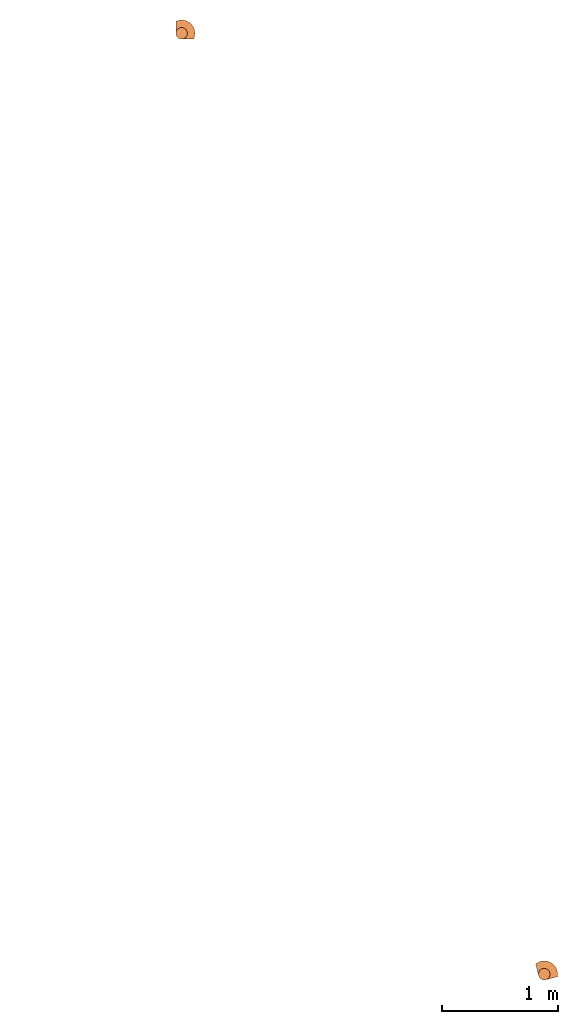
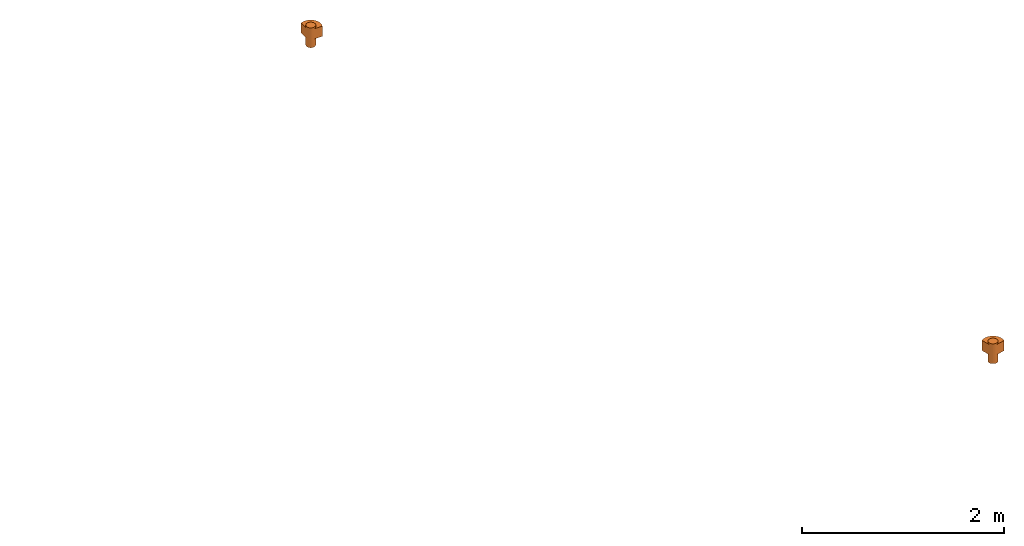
# One storey, part 2 of 2: 2 proxies.
"""IFC2X3 building model written with IfcOpenShell, lengths in centimetres."""

import ifcopenshell
import ifcopenshell.guid

model = None  # the IFC model being written
_history = None  # IfcOwnerHistory: only IFC2X3 demands one
_inside = {}  # id of a spatial element -> (the spatial element, [elements in it])
_under = {}  # id of a project, library or spatial element -> (it, [spatial elements below it])
_declared = {}  # id of a project -> (the project, [libraries it declares])
_typed = {}  # id of a type object -> (the type object, [elements of that type])
_made_of = {}  # id of a material, layer set ... -> (it, [elements and type objects made of it])


def new_model(schema):
    """Start an empty IFC model of exactly this schema.

    Asked for "IFC4X3", IfcOpenShell would pick the latest addendum, in which some entities
    have other attributes; the version numbers below select the first issue.
    IFC2X3 requires an IfcOwnerHistory on every rooted entity: one is made here for all.
    """
    global model, _history
    if schema == "IFC4X3":
        model = ifcopenshell.file(schema_version=(4, 3, 0, 0))
    else:
        model = ifcopenshell.file(schema=schema)
    _inside.clear()
    _under.clear()
    _declared.clear()
    _typed.clear()
    _made_of.clear()
    _history = None
    if model.schema == "IFC2X3":
        org = make("IfcOrganization", Name="unknown")
        user = make(
            "IfcPersonAndOrganization",
            ThePerson=make("IfcPerson", FamilyName="unknown"),
            TheOrganization=org,
        )
        app = make(
            "IfcApplication",
            ApplicationDeveloper=org,
            Version="unknown",
            ApplicationFullName="unknown",
            ApplicationIdentifier="unknown",
        )
        _history = make(
            "IfcOwnerHistory",
            OwningUser=user,
            OwningApplication=app,
            ChangeAction="ADDED",
            CreationDate=0,
        )
    return model


def make(cls, **values):
    """One entity of the class cls with the attributes given. An attribute that is None is left unset."""
    return model.create_entity(
        cls, **{name: value for name, value in values.items() if value is not None}
    )


def entity(cls, *values):
    """Any entity or typed value of the class cls, its attributes in the order of the schema. None: left unset."""
    e = model.create_entity(cls)
    for i, value in enumerate(values):
        if value is not None:
            e[i] = value
    return e


def rooted(cls, **values):
    """An entity with a GlobalId (a new one), such as an element, a storey or a relation."""
    return make(cls, GlobalId=ifcopenshell.guid.new(), OwnerHistory=_history, **values)


def si_unit(unit_type, name, prefix=None):
    """IfcSIUnit, for example si_unit("LENGTHUNIT", "METRE", prefix="MILLI")."""
    return make("IfcSIUnit", UnitType=unit_type, Prefix=prefix, Name=name)


def converted_unit(unit_type, name, factor, base, dimensions=None, offset=None):
    """IfcConversionBasedUnit, such as the inch: factor (a typed value) times the base unit."""
    return make(
        "IfcConversionBasedUnit"
        if offset is None
        else "IfcConversionBasedUnitWithOffset",
        ConversionOffset=offset,
        Dimensions=None
        if dimensions is None
        else entity("IfcDimensionalExponents", *dimensions),
        UnitType=unit_type,
        Name=name,
        ConversionFactor=make(
            "IfcMeasureWithUnit", ValueComponent=factor, UnitComponent=base
        ),
    )


def derived_unit(unit_type, elements):
    """IfcDerivedUnit: a product of units, each with its exponent."""
    return make(
        "IfcDerivedUnit",
        Elements=[
            make("IfcDerivedUnitElement", Unit=unit, Exponent=power)
            for unit, power in elements
        ],
        UnitType=unit_type,
    )


def assignment(units):
    """IfcUnitAssignment: the units of a project."""
    return None if units is None else make("IfcUnitAssignment", Units=units)


def point(xyz):
    """IfcCartesianPoint."""
    return None if xyz is None else make("IfcCartesianPoint", Coordinates=xyz)


def direction(xyz):
    """IfcDirection."""
    return None if xyz is None else make("IfcDirection", DirectionRatios=xyz)


def frame(location, z_axis=None, x_axis=None):
    """IfcAxis2Placement3D, a coordinate frame: its origin and axes. An axis left out is left unset."""
    return make(
        "IfcAxis2Placement3D",
        Location=point(location),
        Axis=direction(z_axis),
        RefDirection=direction(x_axis),
    )


def origin():
    """The frame at (0, 0, 0) with its axes left unset."""
    return frame((0.0, 0.0, 0.0))


def place(relative_to, where):
    """IfcLocalPlacement: puts the frame where relative to a parent placement (None: the world)."""
    return make(
        "IfcLocalPlacement", PlacementRelTo=relative_to, RelativePlacement=where
    )


def context(
    kind, dimensions, precision=None, world=None, true_north=None, identifier=None
):
    """IfcGeometricRepresentationContext, for example the 3D "Model" context."""
    return make(
        "IfcGeometricRepresentationContext",
        ContextIdentifier=identifier,
        ContextType=kind,
        CoordinateSpaceDimension=dimensions,
        Precision=precision,
        WorldCoordinateSystem=world,
        TrueNorth=true_north,
    )


def subcontext(parent, identifier, kind, view, scale=None):
    """IfcGeometricRepresentationSubContext, for example "Body" below "Model"."""
    return make(
        "IfcGeometricRepresentationSubContext",
        ContextIdentifier=identifier,
        ContextType=kind,
        ParentContext=parent,
        TargetScale=scale,
        TargetView=view,
    )


def project(units=None, contexts=None):
    """IfcProject with its units and contexts."""
    return rooted(
        "IfcProject",
        Name="project",
        RepresentationContexts=contexts,
        UnitsInContext=assignment(units),
    )


def spatial(cls, under=None, at=None, **own):
    """A site, building, storey or space (cls), placed at a placement, below another one or the project."""
    s = rooted(cls, ObjectPlacement=at, **own)
    if under is not None:
        _under.setdefault(under.id(), (under, []))[1].append(s)
    return s


def faces_of(points, faces, orient=None, outer=None):
    """IfcFace entities. A face is a list of loops; a loop is a list of indices into points, from 0.

    orient and outer hold one flag for each loop. By default every Orientation is true, the
    first loop of a face is its IfcFaceOuterBound and the others are IfcFaceBound.
    """
    made = []
    for i, loops in enumerate(faces):
        bounds = []
        for j, loop in enumerate(loops):
            is_outer = j == 0 if outer is None else outer[i][j]
            bounds.append(
                make(
                    "IfcFaceOuterBound" if is_outer else "IfcFaceBound",
                    Bound=make("IfcPolyLoop", Polygon=[points[k] for k in loop]),
                    Orientation=True if orient is None else orient[i][j],
                )
            )
        made.append(make("IfcFace", Bounds=bounds))
    return made


def faceted_brep(points, faces, orient=None, outer=None, voids=None):
    """IfcFacetedBrep: a solid bounded by flat faces; with voids (closed shells), ...WithVoids."""
    shared = [point(p) for p in points]
    hull = make("IfcClosedShell", CfsFaces=faces_of(shared, faces, orient, outer))
    if voids is None:
        return make("IfcFacetedBrep", Outer=hull)
    return make(
        "IfcFacetedBrepWithVoids",
        Outer=hull,
        Voids=[
            make(cls, CfsFaces=faces_of(shared, fs, o, b)) for cls, fs, o, b in voids
        ],
    )


def shape(context_of_items, identifier, shape_type, items):
    """IfcShapeRepresentation: the items that make up one representation, for example the "Body"."""
    return make(
        "IfcShapeRepresentation",
        ContextOfItems=context_of_items,
        RepresentationIdentifier=identifier,
        RepresentationType=shape_type,
        Items=items,
    )


def source(mapping_origin, context_of_items, identifier, shape_type, items):
    """IfcRepresentationMap: a shape defined once, which mapped items show again and again."""
    return make(
        "IfcRepresentationMap",
        MappingOrigin=mapping_origin,
        MappedRepresentation=shape(context_of_items, identifier, shape_type, items),
    )


def transform(
    local_origin,
    x_axis=None,
    y_axis=None,
    z_axis=None,
    scale=None,
    scale2=None,
    scale3=None,
    uniform=True,
):
    """IfcCartesianTransformationOperator3D, or its non-uniform kind. x_axis, y_axis, z_axis: its Axis1, 2, 3."""
    if uniform:
        return make(
            "IfcCartesianTransformationOperator3D",
            Axis1=direction(x_axis),
            Axis2=direction(y_axis),
            LocalOrigin=point(local_origin),
            Scale=scale,
            Axis3=direction(z_axis),
        )
    return make(
        "IfcCartesianTransformationOperator3DnonUniform",
        Axis1=direction(x_axis),
        Axis2=direction(y_axis),
        LocalOrigin=point(local_origin),
        Scale=scale,
        Axis3=direction(z_axis),
        Scale2=scale2,
        Scale3=scale3,
    )


def mapped(mapping_source, mapping_target):
    """IfcMappedItem: shows the shape of a source again, moved by a transform."""
    return make(
        "IfcMappedItem", MappingSource=mapping_source, MappingTarget=mapping_target
    )


def material(Name=None, Category=None):
    """IfcMaterial."""
    return make("IfcMaterial", Name=Name, Category=Category)


def made_of(thing, what):
    """Note that an element or type object is made of a material, layer set ...; save() writes the relation."""
    if what is not None:
        _made_of.setdefault(what.id(), (what, []))[1].append(thing)
    return thing


def type_object(cls, material=None, **own):
    """A type object (cls), such as IfcWallType, which elements share."""
    return made_of(rooted(cls, **own), material)


def type_shapes(of_type, sources):
    """Give a type object the sources (RepresentationMaps) that its elements show as mapped items."""
    of_type.RepresentationMaps = sources


def element(
    cls,
    number,
    at=None,
    inside=None,
    cuts=None,
    type_object=None,
    material=None,
    context=None,
    identifier="Body",
    shape_type=None,
    held_by="IfcProductDefinitionShape",
    body=None,
    shapes=None,
    **own,
):
    """One element of the class cls, such as IfcWall. Its Tag is "e" and its number.

    at: its placement. inside: the storey or other place that contains it. cuts: it is an
    opening in that element (IfcRelVoidsElement). A single representation is given by context,
    identifier, shape_type and body (its items); several are given by shapes. held_by: the class
    of the entity that holds the representations. save() writes the other relations.
    """
    e = rooted(cls, Tag="e%d" % number, ObjectPlacement=at, **own)
    if body is not None:
        shapes = [shape(context, identifier, shape_type, body)]
    if shapes is not None:
        e.Representation = make(held_by, Representations=shapes)
    if inside is not None:
        _inside.setdefault(inside.id(), (inside, []))[1].append(e)
    if cuts is not None:
        rooted(
            "IfcRelVoidsElement", RelatingBuildingElement=cuts, RelatedOpeningElement=e
        )
    if type_object is not None:
        _typed.setdefault(type_object.id(), (type_object, []))[1].append(e)
    return made_of(e, material)


def aggregate(whole, parts):
    """IfcRelAggregates: a whole, such as a stair, and the parts it consists of."""
    return rooted("IfcRelAggregates", RelatingObject=whole, RelatedObjects=parts)


def save(model, path):
    """Write the relations noted so far, then the file.

    IfcRelAggregates (storeys below a building ...), IfcRelContainedInSpatialStructure (elements
    in a storey), IfcRelDefinesByType, IfcRelAssociatesMaterial and IfcRelDeclares: one each for
    every whole, place, type object, material and project.
    """
    for whole, parts in _under.values():
        aggregate(whole, parts)
    for where, things in _inside.values():
        rooted(
            "IfcRelContainedInSpatialStructure",
            RelatedElements=things,
            RelatingStructure=where,
        )
    for kind, things in _typed.values():
        rooted("IfcRelDefinesByType", RelatedObjects=things, RelatingType=kind)
    for what, things in _made_of.values():
        rooted("IfcRelAssociatesMaterial", RelatedObjects=things, RelatingMaterial=what)
    for by, libraries in _declared.values():
        rooted("IfcRelDeclares", RelatingContext=by, RelatedDefinitions=libraries)
    model.write(path)


model = new_model("IFC2X3")

# Units and contexts
model_context = context("Model", 3, precision=0.001, world=origin(), true_north=direction((6.12303176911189e-17, 1.0)))
body_context = subcontext(model_context, "Body", "Model", "MODEL_VIEW")
ifc_project = project(units=[si_unit("LENGTHUNIT", "METRE", prefix="CENTI"), si_unit("AREAUNIT", "SQUARE_METRE"), si_unit("VOLUMEUNIT", "CUBIC_METRE"), converted_unit("PLANEANGLEUNIT", "DEGREE", entity("IfcRatioMeasure", 0.0174532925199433), si_unit("PLANEANGLEUNIT", "RADIAN"), dimensions=[0, 0, 0, 0, 0, 0, 0]), si_unit("MASSUNIT", "GRAM", prefix="KILO"), derived_unit("MASSDENSITYUNIT", [(si_unit("MASSUNIT", "GRAM", prefix="KILO"), 1), (si_unit("LENGTHUNIT", "METRE"), -3)]), si_unit("TIMEUNIT", "SECOND"), si_unit("FREQUENCYUNIT", "HERTZ"), si_unit("THERMODYNAMICTEMPERATUREUNIT", "DEGREE_CELSIUS"), derived_unit("THERMALTRANSMITTANCEUNIT", [(si_unit("MASSUNIT", "GRAM", prefix="KILO"), 1), (si_unit("THERMODYNAMICTEMPERATUREUNIT", "KELVIN"), -1), (si_unit("TIMEUNIT", "SECOND"), -3)]), derived_unit("VOLUMETRICFLOWRATEUNIT", [(si_unit("LENGTHUNIT", "METRE"), 3), (si_unit("TIMEUNIT", "SECOND"), -1)]), si_unit("ELECTRICCURRENTUNIT", "AMPERE"), si_unit("ELECTRICVOLTAGEUNIT", "VOLT"), si_unit("POWERUNIT", "WATT"), si_unit("FORCEUNIT", "NEWTON"), si_unit("ILLUMINANCEUNIT", "LUX"), si_unit("LUMINOUSFLUXUNIT", "LUMEN"), si_unit("LUMINOUSINTENSITYUNIT", "CANDELA"), derived_unit("USERDEFINED", [(si_unit("MASSUNIT", "GRAM", prefix="KILO"), -1), (si_unit("LENGTHUNIT", "METRE"), -2), (si_unit("TIMEUNIT", "SECOND"), 3), (si_unit("LUMINOUSFLUXUNIT", "LUMEN"), 1)]), derived_unit("LINEARVELOCITYUNIT", [(si_unit("LENGTHUNIT", "METRE"), 1), (si_unit("TIMEUNIT", "SECOND"), -1)]), si_unit("PRESSUREUNIT", "PASCAL"), derived_unit("USERDEFINED", [(si_unit("LENGTHUNIT", "METRE"), -2), (si_unit("MASSUNIT", "GRAM", prefix="KILO"), 1), (si_unit("TIMEUNIT", "SECOND"), -2)])], contexts=[model_context])

# Site, building, storey
site_placement = place(None, origin())
site = spatial("IfcSite", under=ifc_project, at=site_placement, Name="Default", CompositionType="ELEMENT")
building_placement = place(site_placement, origin())
building = spatial("IfcBuilding", under=site, at=building_placement, Name="CAGE 03", CompositionType="ELEMENT")
storey_placement = place(building_placement, frame((0.0, 0.0, 385.0)))
storey = spatial("IfcBuildingStorey", under=building, at=storey_placement, Name="Ac R+1", CompositionType="ELEMENT", Elevation=385.0)

# Proxies
ifc_material = material(Name="BBGO_Résa")
building_element_proxy_type_1 = type_object("IfcBuildingElementProxyType", Name="Siphon de balcon", PredefinedType="NOTDEFINED", material=ifc_material)
shared_shape_1 = source(origin(), body_context, "Body", "Brep", [
    faceted_brep([(10.3541591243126, 16.4778834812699, 9.69999999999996), (10.3541591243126, 16.4778834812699, 0.0), (9.14825434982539, 15.9783813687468, 0.0), (9.14825434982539, 15.9783813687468, 9.69999999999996), (10.3541591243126, 16.4778834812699, 22.0), (9.14825434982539, 15.9783813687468, 22.0), (9.14825434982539, 15.9783813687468, 24.0), (10.3541591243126, 16.4778834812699, 24.0), (8.11272044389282, 15.1837882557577, 0.0), (8.11272044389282, 15.1837882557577, 9.69999999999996), (8.11272044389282, 15.1837882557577, 22.0), (8.11272044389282, 15.1837882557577, 24.0), (7.31812733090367, 14.1482543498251, 9.69999999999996), (7.31812733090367, 14.1482543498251, 0.0), (6.81862521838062, 12.9423495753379, 0.0), (6.81862521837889, 12.942349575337, 9.69999999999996), (7.31812733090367, 14.1482543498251, 22.0), (6.81862521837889, 12.942349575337, 22.0), (6.81862521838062, 12.9423495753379, 24.0), (7.31812733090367, 14.1482543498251, 24.0), (6.64825434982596, 11.6482543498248, 0.0), (6.64825434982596, 11.6482543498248, 9.69999999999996), (6.64825434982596, 11.6482543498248, 24.0), (6.64825434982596, 11.6482543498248, 22.0), (11.6482543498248, 16.6482543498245, 9.69999999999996), (11.6482543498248, 16.6482543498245, 0.0), (11.6482543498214, 16.6482543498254, 22.0), (11.6482543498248, 16.6482543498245, 24.0), (6.81862521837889, 10.3541591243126, 9.69999999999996), (6.81862521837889, 10.3541591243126, 0.0), (7.31812733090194, 9.14825434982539, 0.0), (7.31812733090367, 9.14825434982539, 9.69999999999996), (6.81862521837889, 10.3541591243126, 22.0), (7.31812733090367, 9.14825434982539, 22.0), (7.31812733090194, 9.14825434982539, 24.0), (6.81862521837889, 10.3541591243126, 24.0), (8.11272044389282, 8.11272044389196, 0.0), (8.11272044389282, 8.11272044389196, 9.69999999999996), (8.11272044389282, 8.11272044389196, 22.0), (8.11272044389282, 8.11272044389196, 24.0), (9.14825434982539, 7.31812733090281, 9.69999999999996), (9.14825434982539, 7.31812733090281, 0.0), (10.3541591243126, 6.81862521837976, 0.0), (10.3541591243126, 6.81862521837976, 9.69999999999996), (9.14825434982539, 7.31812733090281, 22.0), (10.3541591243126, 6.81862521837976, 22.0), (10.3541591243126, 6.81862521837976, 24.0), (9.14825434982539, 7.31812733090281, 24.0), (11.6482543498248, 6.64825434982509, 0.0), (11.6482543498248, 6.64825434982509, 9.69999999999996), (11.6482543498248, 6.64825434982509, 22.0), (11.6482543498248, 6.64825434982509, 24.0), (16.4778834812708, 10.3541591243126, 22.0), (15.978381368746, 9.14825434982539, 22.0), (15.1837882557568, 8.11272044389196, 22.0), (14.1482543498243, 7.31812733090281, 22.0), (12.942349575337, 6.81862521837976, 22.0), (1.29209676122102, 16.6482543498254, 22.0), (0.383832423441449, 13.964026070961, 22.0), (0.15952722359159, 11.1391875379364, 22.0), (0.632800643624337, 8.34525879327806, 22.0), (1.77491621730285, 5.75188308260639, 22.0), (3.51652636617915, 3.51652636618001, 22.0), (5.75188308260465, 1.77491621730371, 22.0), (8.34525879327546, 0.632800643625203, 22.0), (11.1391875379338, 0.159527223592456, 22.0), (13.9640260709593, 0.383832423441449, 22.0), (16.6482543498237, 1.29209676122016, 22.0), (16.6482543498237, 11.6482543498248, 22.0), (12.942349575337, 6.81862521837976, 9.69999999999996), (14.1482543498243, 7.31812733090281, 9.69999999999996), (15.1837882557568, 8.11272044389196, 9.69999999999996), (15.978381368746, 9.14825434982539, 9.69999999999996), (16.4778834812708, 10.3541591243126, 9.69999999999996), (16.6482543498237, 11.6482543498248, 9.69999999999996), (16.6482543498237, 1.29209676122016, 9.69999999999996), (13.9640260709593, 0.383832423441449, 9.69999999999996), (11.1391875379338, 0.159527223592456, 9.69999999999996), (8.34525879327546, 0.632800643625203, 9.69999999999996), (5.75188308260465, 1.77491621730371, 9.69999999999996), (3.51652636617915, 3.51652636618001, 9.69999999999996), (1.77491621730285, 5.75188308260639, 9.69999999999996), (0.632800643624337, 8.34525879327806, 9.69999999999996), (0.15952722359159, 11.1391875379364, 9.69999999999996), (0.383832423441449, 13.964026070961, 9.69999999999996), (1.29209676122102, 16.6482543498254, 9.69999999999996), (12.942349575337, 6.81862521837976, 24.0), (14.1482543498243, 7.31812733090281, 24.0), (15.1837882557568, 8.11272044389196, 24.0), (15.978381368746, 9.14825434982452, 24.0), (16.477883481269, 10.3541591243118, 24.0), (16.6482543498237, 11.6482543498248, 24.0), (16.4778834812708, 12.942349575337, 24.0), (15.9783813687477, 14.1482543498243, 24.0), (15.1837882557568, 15.1837882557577, 24.0), (14.1482543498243, 15.9783813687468, 24.0), (12.942349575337, 16.4778834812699, 24.0), (14.1482543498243, 7.31812733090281, 0.0), (12.942349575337, 6.81862521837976, 0.0), (12.942349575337, 16.4778834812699, 0.0), (14.1482543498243, 15.9783813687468, 0.0), (15.1837882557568, 15.1837882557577, 0.0), (15.9783813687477, 14.1482543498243, 0.0), (16.4778834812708, 12.942349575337, 0.0), (16.6482543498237, 11.6482543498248, 0.0), (16.477883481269, 10.3541591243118, 0.0), (15.978381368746, 9.14825434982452, 0.0), (15.1837882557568, 8.11272044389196, 0.0)], [[[0, 1, 2, 3]], [[4, 5, 6, 7]], [[8, 9, 3, 2]], [[5, 10, 11, 6]], [[12, 13, 14, 15]], [[16, 17, 18, 19]], [[8, 13, 12, 9]], [[10, 16, 19, 11]], [[15, 14, 20, 21]], [[22, 18, 17, 23]], [[1, 0, 24, 25]], [[26, 4, 7, 27]], [[28, 29, 30, 31]], [[32, 33, 34, 35]], [[36, 37, 31, 30]], [[33, 38, 39, 34]], [[40, 41, 42, 43]], [[44, 45, 46, 47]], [[36, 41, 40, 37]], [[38, 44, 47, 39]], [[43, 42, 48, 49]], [[45, 50, 51, 46]], [[29, 28, 21, 20]], [[32, 35, 22, 23]], [[52, 53, 54, 55, 56, 50, 45, 44, 38, 33, 32, 23, 17, 16, 10, 5, 4, 26, 57, 58, 59, 60, 61, 62, 63, 64, 65, 66, 67, 68]], [[21, 28, 31, 37, 40, 43, 49, 69, 70, 71, 72, 73, 74, 75, 76, 77, 78, 79, 80, 81, 82, 83, 84, 85, 24, 0, 3, 9, 12, 15]], [[57, 26, 24, 85]], [[58, 84, 83, 59]], [[60, 82, 81, 61]], [[83, 82, 60, 59]], [[61, 81, 80, 62]], [[84, 58, 57, 85]], [[63, 79, 78, 64]], [[65, 77, 76, 66]], [[78, 77, 65, 64]], [[66, 76, 75, 67]], [[79, 63, 62, 80]], [[68, 67, 75, 74]], [[22, 35, 34, 39, 47, 46, 51, 86, 87, 88, 89, 90, 91, 92, 93, 94, 95, 96, 27, 7, 6, 11, 19, 18]], [[97, 98, 48, 42, 41, 36, 30, 29, 20, 14, 13, 8, 2, 1, 25, 99, 100, 101, 102, 103, 104, 105, 106, 107]], [[48, 98, 69, 49]], [[51, 50, 56, 86]], [[97, 70, 69, 98]], [[56, 55, 87, 86]], [[107, 106, 72, 71]], [[54, 53, 89, 88]], [[107, 71, 70, 97]], [[54, 88, 87, 55]], [[106, 105, 73, 72]], [[89, 53, 52, 90]], [[74, 104, 103, 92, 91, 68]], [[105, 104, 74, 73]], [[52, 68, 91, 90]], [[92, 103, 102, 93]], [[99, 25, 24, 26, 27, 96]], [[94, 101, 100, 95]], [[99, 96, 95, 100]], [[93, 102, 101, 94]]]),
])
type_shapes(building_element_proxy_type_1, [shared_shape_1])
proxy_1_placement = place(storey_placement, frame((11271.0140744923, 4289.30892042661, 203.0), z_axis=(0.0, 0.0, 1.0), x_axis=(-1.0, 0.0, 0.0)))
element("IfcBuildingElementProxy", 1, at=proxy_1_placement, inside=storey, type_object=building_element_proxy_type_1, material=ifc_material, Name="Siphon de balcon29:Siphon de balcon", ObjectType="Siphon de balcon", context=body_context, shape_type="MappedRepresentation", body=[
    mapped(shared_shape_1, transform((0.0, 0.0, 0.0), scale=1.0)),
])
building_element_proxy_type_2 = type_object("IfcBuildingElementProxyType", Name="Siphon de balcon", PredefinedType="NOTDEFINED", material=ifc_material)
shared_shape_2 = source(origin(), body_context, "Body", "Brep", [
    faceted_brep([(10.3541591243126, 16.4778834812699, 9.69999999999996), (10.3541591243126, 16.4778834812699, 0.0), (9.14825434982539, 15.9783813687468, 0.0), (9.14825434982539, 15.9783813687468, 9.69999999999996), (10.3541591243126, 16.4778834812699, 22.0), (9.14825434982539, 15.9783813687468, 22.0), (9.14825434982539, 15.9783813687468, 24.0), (10.3541591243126, 16.4778834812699, 24.0), (8.11272044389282, 15.1837882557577, 0.0), (8.11272044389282, 15.1837882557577, 9.69999999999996), (8.11272044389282, 15.1837882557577, 22.0), (8.11272044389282, 15.1837882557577, 24.0), (7.31812733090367, 14.1482543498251, 9.69999999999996), (7.31812733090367, 14.1482543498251, 0.0), (6.81862521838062, 12.9423495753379, 0.0), (6.81862521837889, 12.942349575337, 9.69999999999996), (7.31812733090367, 14.1482543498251, 22.0), (6.81862521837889, 12.942349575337, 22.0), (6.81862521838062, 12.9423495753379, 24.0), (7.31812733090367, 14.1482543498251, 24.0), (6.64825434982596, 11.6482543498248, 0.0), (6.64825434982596, 11.6482543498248, 9.69999999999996), (6.64825434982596, 11.6482543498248, 24.0), (6.64825434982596, 11.6482543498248, 22.0), (11.6482543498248, 16.6482543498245, 9.69999999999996), (11.6482543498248, 16.6482543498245, 0.0), (11.6482543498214, 16.6482543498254, 22.0), (11.6482543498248, 16.6482543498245, 24.0), (6.81862521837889, 10.3541591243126, 9.69999999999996), (6.81862521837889, 10.3541591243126, 0.0), (7.31812733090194, 9.14825434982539, 0.0), (7.31812733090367, 9.14825434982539, 9.69999999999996), (6.81862521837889, 10.3541591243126, 22.0), (7.31812733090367, 9.14825434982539, 22.0), (7.31812733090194, 9.14825434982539, 24.0), (6.81862521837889, 10.3541591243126, 24.0), (8.11272044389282, 8.11272044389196, 0.0), (8.11272044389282, 8.11272044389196, 9.69999999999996), (8.11272044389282, 8.11272044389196, 22.0), (8.11272044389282, 8.11272044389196, 24.0), (9.14825434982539, 7.31812733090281, 9.69999999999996), (9.14825434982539, 7.31812733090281, 0.0), (10.3541591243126, 6.81862521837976, 0.0), (10.3541591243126, 6.81862521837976, 9.69999999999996), (9.14825434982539, 7.31812733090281, 22.0), (10.3541591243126, 6.81862521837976, 22.0), (10.3541591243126, 6.81862521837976, 24.0), (9.14825434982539, 7.31812733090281, 24.0), (11.6482543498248, 6.64825434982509, 0.0), (11.6482543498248, 6.64825434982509, 9.69999999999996), (11.6482543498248, 6.64825434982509, 22.0), (11.6482543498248, 6.64825434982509, 24.0), (16.4778834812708, 10.3541591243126, 22.0), (15.978381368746, 9.14825434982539, 22.0), (15.1837882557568, 8.11272044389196, 22.0), (14.1482543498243, 7.31812733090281, 22.0), (12.942349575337, 6.81862521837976, 22.0), (1.29209676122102, 16.6482543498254, 22.0), (0.383832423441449, 13.964026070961, 22.0), (0.15952722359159, 11.1391875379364, 22.0), (0.632800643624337, 8.34525879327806, 22.0), (1.77491621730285, 5.75188308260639, 22.0), (3.51652636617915, 3.51652636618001, 22.0), (5.75188308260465, 1.77491621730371, 22.0), (8.34525879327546, 0.632800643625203, 22.0), (11.1391875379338, 0.159527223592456, 22.0), (13.9640260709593, 0.383832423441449, 22.0), (16.6482543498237, 1.29209676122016, 22.0), (16.6482543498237, 11.6482543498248, 22.0), (12.942349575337, 6.81862521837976, 9.69999999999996), (14.1482543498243, 7.31812733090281, 9.69999999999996), (15.1837882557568, 8.11272044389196, 9.69999999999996), (15.978381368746, 9.14825434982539, 9.69999999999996), (16.4778834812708, 10.3541591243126, 9.69999999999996), (16.6482543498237, 11.6482543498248, 9.69999999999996), (16.6482543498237, 1.29209676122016, 9.69999999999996), (13.9640260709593, 0.383832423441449, 9.69999999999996), (11.1391875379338, 0.159527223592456, 9.69999999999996), (8.34525879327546, 0.632800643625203, 9.69999999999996), (5.75188308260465, 1.77491621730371, 9.69999999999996), (3.51652636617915, 3.51652636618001, 9.69999999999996), (1.77491621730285, 5.75188308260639, 9.69999999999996), (0.632800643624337, 8.34525879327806, 9.69999999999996), (0.15952722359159, 11.1391875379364, 9.69999999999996), (0.383832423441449, 13.964026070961, 9.69999999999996), (1.29209676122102, 16.6482543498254, 9.69999999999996), (12.942349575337, 6.81862521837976, 24.0), (14.1482543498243, 7.31812733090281, 24.0), (15.1837882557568, 8.11272044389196, 24.0), (15.978381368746, 9.14825434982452, 24.0), (16.477883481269, 10.3541591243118, 24.0), (16.6482543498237, 11.6482543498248, 24.0), (16.4778834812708, 12.942349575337, 24.0), (15.9783813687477, 14.1482543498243, 24.0), (15.1837882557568, 15.1837882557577, 24.0), (14.1482543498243, 15.9783813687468, 24.0), (12.942349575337, 16.4778834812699, 24.0), (14.1482543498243, 7.31812733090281, 0.0), (12.942349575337, 6.81862521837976, 0.0), (12.942349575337, 16.4778834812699, 0.0), (14.1482543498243, 15.9783813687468, 0.0), (15.1837882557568, 15.1837882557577, 0.0), (15.9783813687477, 14.1482543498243, 0.0), (16.4778834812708, 12.942349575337, 0.0), (16.6482543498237, 11.6482543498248, 0.0), (16.477883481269, 10.3541591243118, 0.0), (15.978381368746, 9.14825434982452, 0.0), (15.1837882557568, 8.11272044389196, 0.0)], [[[0, 1, 2, 3]], [[4, 5, 6, 7]], [[8, 9, 3, 2]], [[5, 10, 11, 6]], [[12, 13, 14, 15]], [[16, 17, 18, 19]], [[8, 13, 12, 9]], [[10, 16, 19, 11]], [[15, 14, 20, 21]], [[22, 18, 17, 23]], [[1, 0, 24, 25]], [[26, 4, 7, 27]], [[28, 29, 30, 31]], [[32, 33, 34, 35]], [[36, 37, 31, 30]], [[33, 38, 39, 34]], [[40, 41, 42, 43]], [[44, 45, 46, 47]], [[36, 41, 40, 37]], [[38, 44, 47, 39]], [[43, 42, 48, 49]], [[45, 50, 51, 46]], [[29, 28, 21, 20]], [[32, 35, 22, 23]], [[52, 53, 54, 55, 56, 50, 45, 44, 38, 33, 32, 23, 17, 16, 10, 5, 4, 26, 57, 58, 59, 60, 61, 62, 63, 64, 65, 66, 67, 68]], [[21, 28, 31, 37, 40, 43, 49, 69, 70, 71, 72, 73, 74, 75, 76, 77, 78, 79, 80, 81, 82, 83, 84, 85, 24, 0, 3, 9, 12, 15]], [[57, 26, 24, 85]], [[58, 84, 83, 59]], [[60, 82, 81, 61]], [[83, 82, 60, 59]], [[61, 81, 80, 62]], [[84, 58, 57, 85]], [[63, 79, 78, 64]], [[65, 77, 76, 66]], [[78, 77, 65, 64]], [[66, 76, 75, 67]], [[79, 63, 62, 80]], [[68, 67, 75, 74]], [[22, 35, 34, 39, 47, 46, 51, 86, 87, 88, 89, 90, 91, 92, 93, 94, 95, 96, 27, 7, 6, 11, 19, 18]], [[97, 98, 48, 42, 41, 36, 30, 29, 20, 14, 13, 8, 2, 1, 25, 99, 100, 101, 102, 103, 104, 105, 106, 107]], [[48, 98, 69, 49]], [[51, 50, 56, 86]], [[97, 70, 69, 98]], [[56, 55, 87, 86]], [[107, 106, 72, 71]], [[54, 53, 89, 88]], [[107, 71, 70, 97]], [[54, 88, 87, 55]], [[106, 105, 73, 72]], [[89, 53, 52, 90]], [[74, 104, 103, 92, 91, 68]], [[105, 104, 74, 73]], [[52, 68, 91, 90]], [[92, 103, 102, 93]], [[99, 25, 24, 26, 27, 96]], [[94, 101, 100, 95]], [[99, 96, 95, 100]], [[93, 102, 101, 94]]]),
])
type_shapes(building_element_proxy_type_2, [shared_shape_2])
proxy_2_placement = place(storey_placement, frame((11579.6647062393, 3482.64059211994, 203.0), z_axis=(0.0, 0.0, 1.0), x_axis=(-0.96809319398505, -0.250590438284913, 0.0)))
element("IfcBuildingElementProxy", 2, at=proxy_2_placement, inside=storey, type_object=building_element_proxy_type_2, material=ifc_material, Name="Siphon de balcon32:Siphon de balcon", ObjectType="Siphon de balcon", context=body_context, shape_type="MappedRepresentation", body=[
    mapped(shared_shape_2, transform((0.0, 0.0, 0.0), scale=1.0)),
])

save(model, "model.ifc")
